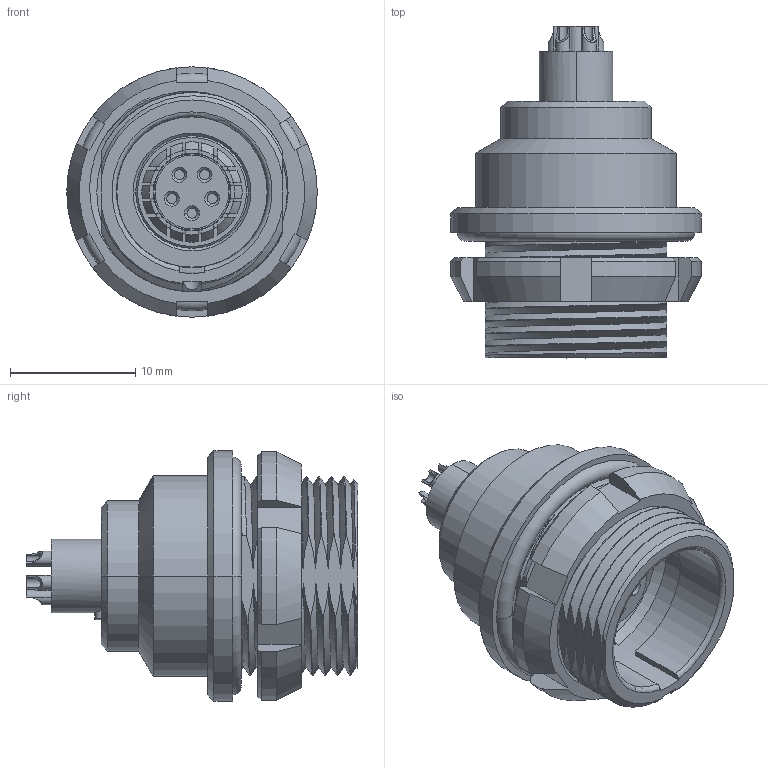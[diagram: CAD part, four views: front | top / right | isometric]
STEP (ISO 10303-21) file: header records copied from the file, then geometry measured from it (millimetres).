
FILE_DESCRIPTION((''),'2;1');
FILE_NAME('FLKC-05EEFS-GCP-001','2021-10-21T',('L210037'),(''),'PRO/ENGINEER BY PARAMETRIC TECHNOLOGY CORPORATION, 2017170','PRO/ENGINEER BY PARAMETRIC TECHNOLOGY CORPORATION, 2017170','');
FILE_SCHEMA(('CONFIG_CONTROL_DESIGN'));
Length unit declared in the file: millimetre
Products named in the file (1): FLKC-05EEFS-GCP-001
Bounding box: 20 x 26.5 x 20 mm (x, y, z)
Volume: 2735.6 mm3; surface area: 3860.9 mm2
Topology: 1 solids, 1 shells, 388 faces, 1159 edges, 780 vertices
Faces by surface type: plane 140, cylinder 115, cone 73, bspline 55, torus 5
Entity records: 18050 total; most frequent: CARTESIAN_POINT 7966, ORIENTED_EDGE 2318, DIRECTION 1840, EDGE_CURVE 1159, VERTEX_POINT 780, AXIS2_PLACEMENT_3D 698, VECTOR 444, LINE 444
